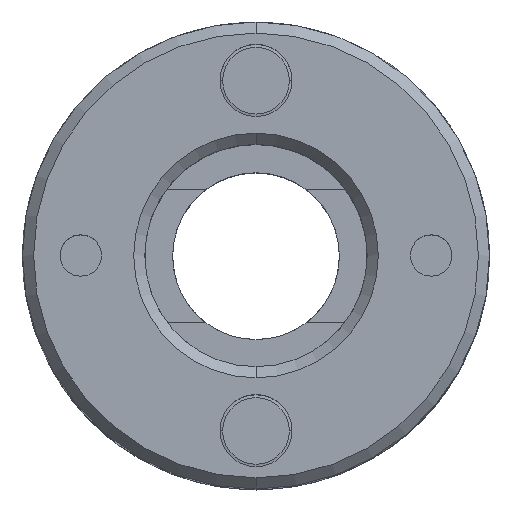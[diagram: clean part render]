
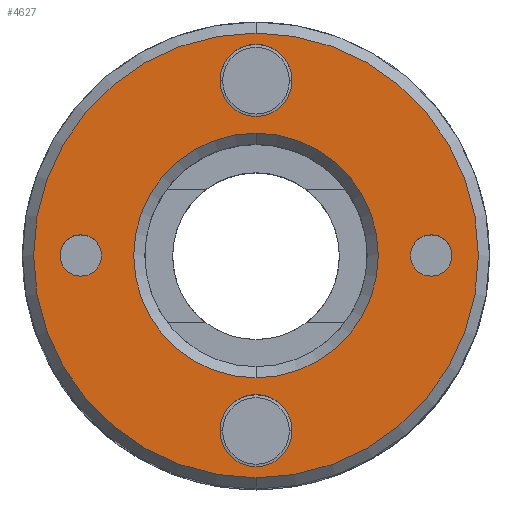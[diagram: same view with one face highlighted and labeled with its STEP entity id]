
A CAD part, top view. The second image highlights one B-rep face of the part: STEP entity #4627.
In plain terms, the highlighted planar face has unit normal (0, 0, 1).
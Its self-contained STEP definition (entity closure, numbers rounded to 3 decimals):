
#1499=CARTESIAN_POINT('',(0.,3.8,5.25));
#1500=VERTEX_POINT('',#1499);
#1516=CARTESIAN_POINT('',(0.,2.5,5.25));
#1517=VERTEX_POINT('',#1516);
#1524=CARTESIAN_POINT('',(0.,3.15,5.25));
#1525=DIRECTION('',(0.0,0.0,-1.0));
#1526=DIRECTION('',(0.0,1.0,0.0));
#1527=AXIS2_PLACEMENT_3D('',#1524,#1525,#1526);
#1528=CIRCLE('',#1527,0.65);
#1529=EDGE_CURVE('',#1500,#1517,#1528,.T.);
#1541=CARTESIAN_POINT('',(0.,-2.5,5.25));
#1542=VERTEX_POINT('',#1541);
#1558=CARTESIAN_POINT('',(0.,-3.8,5.25));
#1559=VERTEX_POINT('',#1558);
#1566=CARTESIAN_POINT('',(0.,-3.15,5.25));
#1567=DIRECTION('',(0.0,0.0,-1.0));
#1568=DIRECTION('',(0.0,1.0,0.0));
#1569=AXIS2_PLACEMENT_3D('',#1566,#1567,#1568);
#1570=CIRCLE('',#1569,0.65);
#1571=EDGE_CURVE('',#1542,#1559,#1570,.T.);
#1583=CARTESIAN_POINT('',(-3.15,0.375,5.25));
#1584=VERTEX_POINT('',#1583);
#1600=CARTESIAN_POINT('',(-3.15,-0.375,5.25));
#1601=VERTEX_POINT('',#1600);
#1608=CARTESIAN_POINT('',(-3.15,0.,5.25));
#1609=DIRECTION('',(0.0,0.0,-1.0));
#1610=DIRECTION('',(0.0,1.0,0.0));
#1611=AXIS2_PLACEMENT_3D('',#1608,#1609,#1610);
#1612=CIRCLE('',#1611,0.375);
#1613=EDGE_CURVE('',#1584,#1601,#1612,.T.);
#1625=CARTESIAN_POINT('',(3.15,0.375,5.25));
#1626=VERTEX_POINT('',#1625);
#1642=CARTESIAN_POINT('',(3.15,-0.375,5.25));
#1643=VERTEX_POINT('',#1642);
#1650=CARTESIAN_POINT('',(3.15,0.,5.25));
#1651=DIRECTION('',(0.0,0.0,-1.0));
#1652=DIRECTION('',(0.0,1.0,0.0));
#1653=AXIS2_PLACEMENT_3D('',#1650,#1651,#1652);
#1654=CIRCLE('',#1653,0.375);
#1655=EDGE_CURVE('',#1626,#1643,#1654,.T.);
#1851=CARTESIAN_POINT('',(0.,-2.2,5.25));
#1852=VERTEX_POINT('',#1851);
#1866=CARTESIAN_POINT('',(0.,2.2,5.25));
#1867=VERTEX_POINT('',#1866);
#1874=CARTESIAN_POINT('',(0.,0.,5.25));
#1875=DIRECTION('',(0.0,0.0,1.0));
#1876=DIRECTION('',(0.0,-1.0,0.0));
#1877=AXIS2_PLACEMENT_3D('',#1874,#1875,#1876);
#1878=CIRCLE('',#1877,2.2);
#1879=EDGE_CURVE('',#1867,#1852,#1878,.T.);
#2075=CARTESIAN_POINT('',(0.,-4.0,5.25));
#2076=VERTEX_POINT('',#2075);
#2083=CARTESIAN_POINT('',(0.,4.0,5.25));
#2084=VERTEX_POINT('',#2083);
#2085=CARTESIAN_POINT('',(0.,0.,5.25));
#2086=DIRECTION('',(0.0,0.0,-1.0));
#2087=DIRECTION('',(0.0,-1.0,0.0));
#2088=AXIS2_PLACEMENT_3D('',#2085,#2086,#2087);
#2089=CIRCLE('',#2088,4.0);
#2090=EDGE_CURVE('',#2076,#2084,#2089,.T.);
#4558=CARTESIAN_POINT('',(0.,0.,5.25));
#4559=DIRECTION('',(0.0,0.0,-1.0));
#4560=DIRECTION('',(0.0,-1.0,0.0));
#4561=AXIS2_PLACEMENT_3D('',#4558,#4559,#4560);
#4562=CIRCLE('',#4561,4.0);
#4563=EDGE_CURVE('',#2084,#2076,#4562,.T.);
#4568=CARTESIAN_POINT('',(0.,0.382,5.25));
#4569=DIRECTION('',(0.0,0.0,-1.0));
#4570=DIRECTION('',(0.0,1.0,0.0));
#4571=AXIS2_PLACEMENT_3D('',#4568,#4569,#4570);
#4572=PLANE('',#4571);
#4573=ORIENTED_EDGE('',*,*,#4563,.F.);
#4574=ORIENTED_EDGE('',*,*,#2090,.F.);
#4575=EDGE_LOOP('',(#4573,#4574));
#4576=FACE_OUTER_BOUND('',#4575,.T.);
#4577=ORIENTED_EDGE('',*,*,#1879,.F.);
#4578=CARTESIAN_POINT('',(0.,0.,5.25));
#4579=DIRECTION('',(0.0,0.0,1.0));
#4580=DIRECTION('',(0.0,-1.0,0.0));
#4581=AXIS2_PLACEMENT_3D('',#4578,#4579,#4580);
#4582=CIRCLE('',#4581,2.2);
#4583=EDGE_CURVE('',#1852,#1867,#4582,.T.);
#4584=ORIENTED_EDGE('',*,*,#4583,.F.);
#4585=EDGE_LOOP('',(#4577,#4584));
#4586=FACE_BOUND('',#4585,.T.);
#4587=ORIENTED_EDGE('',*,*,#1655,.T.);
#4588=CARTESIAN_POINT('',(3.15,0.,5.25));
#4589=DIRECTION('',(0.0,0.0,-1.0));
#4590=DIRECTION('',(0.0,1.0,0.0));
#4591=AXIS2_PLACEMENT_3D('',#4588,#4589,#4590);
#4592=CIRCLE('',#4591,0.375);
#4593=EDGE_CURVE('',#1643,#1626,#4592,.T.);
#4594=ORIENTED_EDGE('',*,*,#4593,.T.);
#4595=EDGE_LOOP('',(#4587,#4594));
#4596=FACE_BOUND('',#4595,.T.);
#4597=ORIENTED_EDGE('',*,*,#1613,.T.);
#4598=CARTESIAN_POINT('',(-3.15,0.,5.25));
#4599=DIRECTION('',(0.0,0.0,-1.0));
#4600=DIRECTION('',(0.0,1.0,0.0));
#4601=AXIS2_PLACEMENT_3D('',#4598,#4599,#4600);
#4602=CIRCLE('',#4601,0.375);
#4603=EDGE_CURVE('',#1601,#1584,#4602,.T.);
#4604=ORIENTED_EDGE('',*,*,#4603,.T.);
#4605=EDGE_LOOP('',(#4597,#4604));
#4606=FACE_BOUND('',#4605,.T.);
#4607=ORIENTED_EDGE('',*,*,#1571,.T.);
#4608=CARTESIAN_POINT('',(0.,-3.15,5.25));
#4609=DIRECTION('',(0.0,0.0,-1.0));
#4610=DIRECTION('',(0.0,1.0,0.0));
#4611=AXIS2_PLACEMENT_3D('',#4608,#4609,#4610);
#4612=CIRCLE('',#4611,0.65);
#4613=EDGE_CURVE('',#1559,#1542,#4612,.T.);
#4614=ORIENTED_EDGE('',*,*,#4613,.T.);
#4615=EDGE_LOOP('',(#4607,#4614));
#4616=FACE_BOUND('',#4615,.T.);
#4617=ORIENTED_EDGE('',*,*,#1529,.T.);
#4618=CARTESIAN_POINT('',(0.,3.15,5.25));
#4619=DIRECTION('',(0.0,0.0,-1.0));
#4620=DIRECTION('',(0.0,1.0,0.0));
#4621=AXIS2_PLACEMENT_3D('',#4618,#4619,#4620);
#4622=CIRCLE('',#4621,0.65);
#4623=EDGE_CURVE('',#1517,#1500,#4622,.T.);
#4624=ORIENTED_EDGE('',*,*,#4623,.T.);
#4625=EDGE_LOOP('',(#4617,#4624));
#4626=FACE_BOUND('',#4625,.T.);
#4627=ADVANCED_FACE('',(#4576,#4586,#4596,#4606,#4616,#4626),#4572,.F.);
